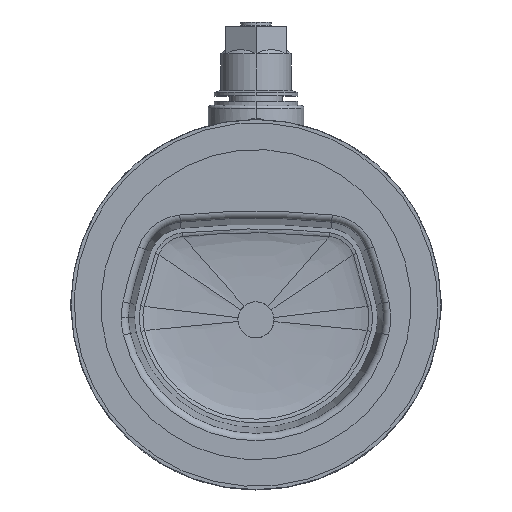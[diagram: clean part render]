
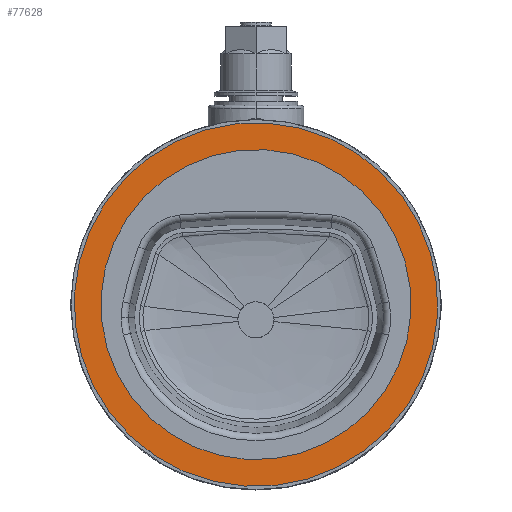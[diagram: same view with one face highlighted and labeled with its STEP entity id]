
A CAD part, top view. The second image highlights one B-rep face of the part: STEP entity #77628.
In plain terms, the highlighted planar face has unit normal (0, 0, 1).
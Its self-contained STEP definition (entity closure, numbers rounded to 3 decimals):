
#307 = AXIS2_PLACEMENT_3D ( 'NONE', #5827, #33528, #48878 ) ;
#2665 = CARTESIAN_POINT ( 'NONE',  ( 36.5, 40.179, 136.141 ) ) ;
#5827 = CARTESIAN_POINT ( 'NONE',  ( 36.5, 40.179, 136.141 ) ) ;
#6283 = VERTEX_POINT ( 'NONE', #84432 ) ;
#12491 = CIRCLE ( 'NONE', #40215, 125.75 ) ;
#15086 = FACE_OUTER_BOUND ( 'NONE', #15552, .T. ) ;
#15542 = CARTESIAN_POINT ( 'NONE',  ( -78.686, 90.628, 136.141 ) ) ;
#15552 = EDGE_LOOP ( 'NONE', ( #25626, #32211 ) ) ;
#15553 = DIRECTION ( 'NONE',  ( 0., 0., -1. ) ) ;
#21528 = ORIENTED_EDGE ( 'NONE', *, *, #76341, .T. ) ;
#24638 = DIRECTION ( 'NONE',  ( 0., 0., -1. ) ) ;
#25626 = ORIENTED_EDGE ( 'NONE', *, *, #82299, .F. ) ;
#26123 = CARTESIAN_POINT ( 'NONE',  ( 79.528, 138.419, 136.141 ) ) ;
#28113 = ORIENTED_EDGE ( 'NONE', *, *, #37563, .T. ) ;
#28656 = AXIS2_PLACEMENT_3D ( 'NONE', #15542, #64791, #36928 ) ;
#28753 = DIRECTION ( 'NONE',  ( -0.401, -0.916, 0. ) ) ;
#30461 = VERTEX_POINT ( 'NONE', #26123 ) ;
#32211 = ORIENTED_EDGE ( 'NONE', *, *, #68263, .F. ) ;
#33528 = DIRECTION ( 'NONE',  ( 0., 0., -1. ) ) ;
#36928 = DIRECTION ( 'NONE',  ( -0.401, -0.916, 0. ) ) ;
#37563 = EDGE_CURVE ( 'NONE', #83456, #30461, #42591, .T. ) ;
#40215 = AXIS2_PLACEMENT_3D ( 'NONE', #53394, #88893, #89800 ) ;
#40935 = AXIS2_PLACEMENT_3D ( 'NONE', #2665, #24638, #45982 ) ;
#42591 = CIRCLE ( 'NONE', #89497, 107.25 ) ;
#44152 = CARTESIAN_POINT ( 'NONE',  ( 36.5, 40.179, 136.141 ) ) ;
#45982 = DIRECTION ( 'NONE',  ( -0.401, -0.916, 0. ) ) ;
#47609 = CIRCLE ( 'NONE', #40935, 125.75 ) ;
#48878 = DIRECTION ( 'NONE',  ( -0.401, -0.916, 0. ) ) ;
#52208 = CARTESIAN_POINT ( 'NONE',  ( 86.95, 155.365, 136.141 ) ) ;
#53394 = CARTESIAN_POINT ( 'NONE',  ( 36.5, 40.179, 136.141 ) ) ;
#57480 = EDGE_LOOP ( 'NONE', ( #28113, #21528 ) ) ;
#57773 = FACE_BOUND ( 'NONE', #57480, .T. ) ;
#57900 = PLANE ( 'NONE',  #28656 ) ;
#64791 = DIRECTION ( 'NONE',  ( 0., 0., -1. ) ) ;
#68263 = EDGE_CURVE ( 'NONE', #83215, #6283, #47609, .T. ) ;
#76341 = EDGE_CURVE ( 'NONE', #30461, #83456, #84942, .T. ) ;
#77628 = ADVANCED_FACE ( 'NONE', ( #15086, #57773 ), #57900, .F. ) ;
#82299 = EDGE_CURVE ( 'NONE', #6283, #83215, #12491, .T. ) ;
#83215 = VERTEX_POINT ( 'NONE', #52208 ) ;
#83301 = CARTESIAN_POINT ( 'NONE',  ( -6.528, -58.062, 136.141 ) ) ;
#83456 = VERTEX_POINT ( 'NONE', #83301 ) ;
#84432 = CARTESIAN_POINT ( 'NONE',  ( -13.95, -75.008, 136.141 ) ) ;
#84942 = CIRCLE ( 'NONE', #307, 107.25 ) ;
#88893 = DIRECTION ( 'NONE',  ( 0., 0., -1. ) ) ;
#89497 = AXIS2_PLACEMENT_3D ( 'NONE', #44152, #15553, #28753 ) ;
#89800 = DIRECTION ( 'NONE',  ( -0.401, -0.916, 0. ) ) ;
